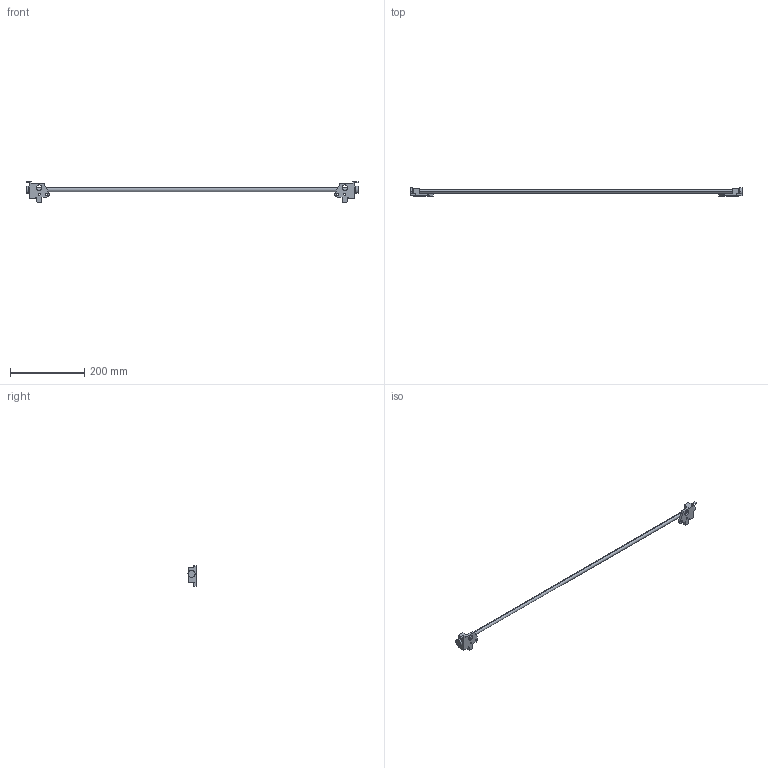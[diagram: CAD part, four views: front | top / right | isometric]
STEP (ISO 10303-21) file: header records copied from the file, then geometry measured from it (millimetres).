
FILE_DESCRIPTION (( 'STEP AP214' ), '1' );
FILE_NAME ('Seitenstabilisator-Set_KAB-900.step', '2010-09-22T11:14:50', ( 'grass' ), ( '' ), 'SwSTEP 2.0', 'SolidWorks 2010', '' );
FILE_SCHEMA (( 'AUTOMOTIVE_DESIGN' ));
Length unit declared in the file: millimetre
Products named in the file (1): Seitenstabilisator-Set_KAB-900
Bounding box: 893 x 21.55 x 55.1 mm (x, y, z)
Volume: 110306.9 mm3; surface area: 42036.2 mm2
Topology: 1 solids, 1 shells, 66 faces, 174 edges, 116 vertices
Faces by surface type: plane 40, cylinder 26
Entity records: 2108 total; most frequent: DIRECTION 360, CARTESIAN_POINT 357, ORIENTED_EDGE 348, EDGE_CURVE 174, LINE 122, VECTOR 122, AXIS2_PLACEMENT_3D 119, VERTEX_POINT 116
